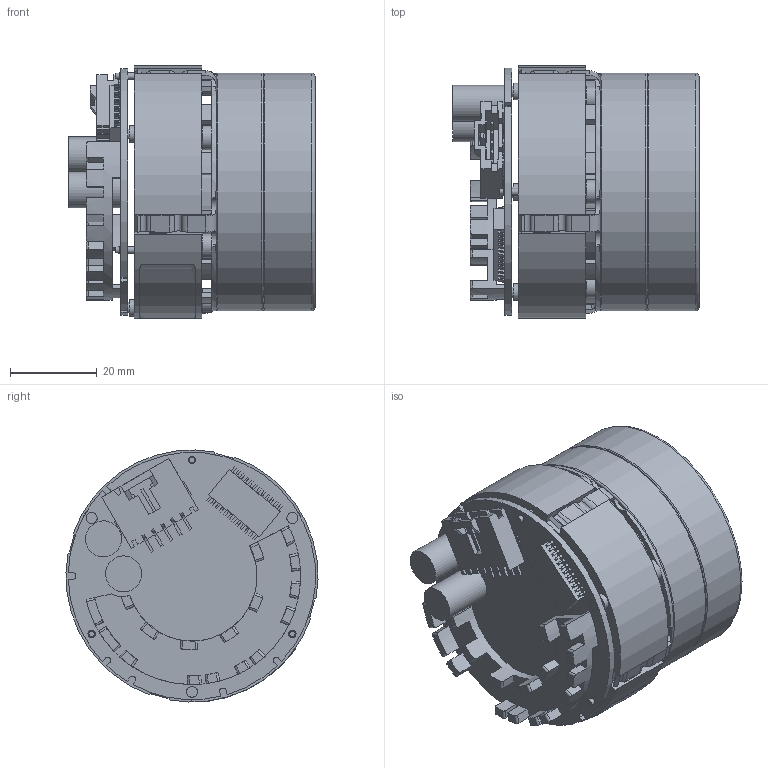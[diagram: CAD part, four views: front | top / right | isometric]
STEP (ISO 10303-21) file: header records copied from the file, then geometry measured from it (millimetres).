
FILE_DESCRIPTION (( 'STEP AP214' ), '1' );
FILE_NAME ('PD01-PM-00B.STEP', '2017-03-03T21:10:30', ( '' ), ( '' ), 'SwSTEP 2.0', 'SolidWorks 2015', '' );
FILE_SCHEMA (( 'AUTOMOTIVE_DESIGN' ));
Length unit declared in the file: millimetre
Products named in the file (23): Cap^PD01-MA-00B; HS^PD01-MA-00B; Label^PD01-MA-00B; Pins^PD01-MA-00B; PCB^PD01-MA-00B; PD01-PU-00; Mol^PD01-MA-00B; MB0112; Lam^PD01-MA-00B; PD01-SC-00; PD01-PM-00B; PD01-EP-00; PD01-BO-00; PD01-BB-00; PD01-CU-00; PD01-MA-00B; Processor^PD01-MA-00B; Connector^PD01-MA-00B
Assembly tree (25 placements, depth 4):
  PD01-PM-00B
    PD01-MA-00B
      Lam^PD01-MA-00B
      Mol^PD01-MA-00B
      PCB^PD01-MA-00B
      Pins^PD01-MA-00B  x3
      Label^PD01-MA-00B
      HS^PD01-MA-00B
      Cap^PD01-MA-00B  x2
      Connector^PD01-MA-00B
      Processor^PD01-MA-00B
    PD01-PU-00
      PD01-SC-00
      PD01-CU-00
      PD01-BO-00
        PD01-BB-00
      PD01-EP-00
      PD01-SC-00
      PD01-SC-00
      PD01-SC-00
      PD01-SC-00
      PD01-SC-00
      MB0112
Bounding box: 56.8 x 58.08 x 58.08 mm (x, y, z)
Volume: 89158.2 mm3; surface area: 53168.7 mm2
Topology: 22 solids, 22 shells, 1490 faces, 4150 edges, 2759 vertices
Faces by surface type: plane 965, cylinder 481, torus 29, cone 15
Full cylindrical faces by diameter (mm): 1.6 x15, 1.7 x3, 2.4 x6, 2.5 x3, 2.55 x3, 3.3 x8, 3.8 x3, 5.5 x6, 6 x2, 8.3 x2, 8.4 x2, 26 x1, 36.1 x1, 38 x1, 42.7 x2, 49.1 x1, 54.8 x2
Entity records: 51249 total; most frequent: CARTESIAN_POINT 8853, ORIENTED_EDGE 7984, DIRECTION 7852, EDGE_CURVE 3992, LINE 2912, VECTOR 2912, VERTEX_POINT 2707, AXIS2_PLACEMENT_3D 2470
